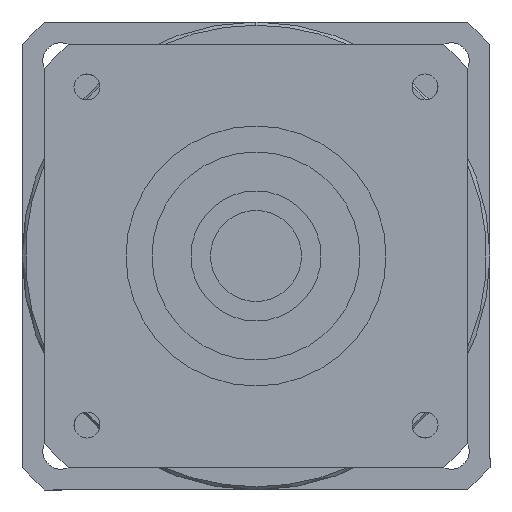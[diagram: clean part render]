
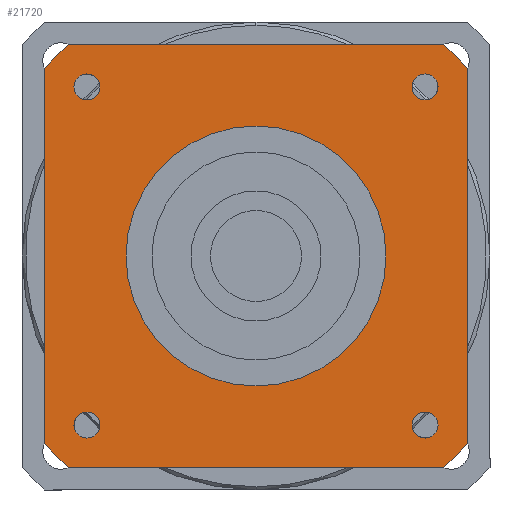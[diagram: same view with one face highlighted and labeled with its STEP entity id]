
A CAD part, left-side view. The second image highlights one B-rep face of the part: STEP entity #21720.
In plain terms, the highlighted planar face has unit normal (-1, 0, 0) as drawn and (0, 0, -1) by its records, which use the part's own axes.
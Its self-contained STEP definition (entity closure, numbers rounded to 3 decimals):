
#15830=CARTESIAN_POINT('',(28.914,32.5,-91.));
#15840=VERTEX_POINT('',#15830);
#15870=CARTESIAN_POINT('',(0.,0.,
-91.));
#15880=DIRECTION('',(0.,0.,1.));
#15890=DIRECTION('',(0.,-1.,0.));
#15900=AXIS2_PLACEMENT_3D('',#15870,#15880,#15890);
#15910=CIRCLE('',#15900,43.5);
#15920=CARTESIAN_POINT('',(32.5,28.914,-91.));
#15930=VERTEX_POINT('',#15920);
#15940=EDGE_CURVE('',#15930,#15840,#15910,.T.);
#18330=CARTESIAN_POINT('',(-28.914,32.5,-91.));
#18340=VERTEX_POINT('',#18330);
#18420=CARTESIAN_POINT('',(-32.5,28.914,-91.));
#18430=VERTEX_POINT('',#18420);
#18460=CARTESIAN_POINT('',(0.,0.,
-91.));
#18470=DIRECTION('',(0.,0.,1.));
#18480=DIRECTION('',(0.,-1.,0.));
#18490=AXIS2_PLACEMENT_3D('',#18460,#18470,#18480);
#18500=CIRCLE('',#18490,43.5);
#18510=EDGE_CURVE('',#18340,#18430,#18500,.T.);
#19020=CARTESIAN_POINT('',(-32.5,-28.914,-91.));
#19030=VERTEX_POINT('',#19020);
#19110=CARTESIAN_POINT('',(-28.914,-32.5,-91.));
#19120=VERTEX_POINT('',#19110);
#19150=CARTESIAN_POINT('',(0.,0.,
-91.));
#19160=DIRECTION('',(0.,0.,1.));
#19170=DIRECTION('',(0.,-1.,0.));
#19180=AXIS2_PLACEMENT_3D('',#19150,#19160,#19170);
#19190=CIRCLE('',#19180,43.5);
#19200=EDGE_CURVE('',#19030,#19120,#19190,.T.);
#19670=CARTESIAN_POINT('',(28.914,-32.5,-91.));
#19680=VERTEX_POINT('',#19670);
#19760=CARTESIAN_POINT('',(32.5,-28.914,-91.));
#19770=VERTEX_POINT('',#19760);
#19800=CARTESIAN_POINT('',(0.,0.,
-91.));
#19810=DIRECTION('',(0.,0.,1.));
#19820=DIRECTION('',(0.,-1.,0.));
#19830=AXIS2_PLACEMENT_3D('',#19800,#19810,#19820);
#19840=CIRCLE('',#19830,43.5);
#19850=EDGE_CURVE('',#19680,#19770,#19840,.T.);
#20000=CARTESIAN_POINT('',(32.5,-32.5,-91.));
#20010=DIRECTION('',(0.,1.,0.));
#20020=VECTOR('',#20010,1000.);
#20030=LINE('',#20000,#20020);
#20040=EDGE_CURVE('',#19770,#15930,#20030,.T.);
#20190=CARTESIAN_POINT('',(32.5,32.5,-91.));
#20200=DIRECTION('',(-1.,0.,0.));
#20210=VECTOR('',#20200,1000.);
#20220=LINE('',#20190,#20210);
#20230=EDGE_CURVE('',#15840,#18340,#20220,.T.);
#20370=CARTESIAN_POINT('',(-26.,24.,-91.));
#20380=VERTEX_POINT('',#20370);
#20470=CARTESIAN_POINT('',(-26.,28.,-91.));
#20480=VERTEX_POINT('',#20470);
#20510=CARTESIAN_POINT('',(-26.,26.,-91.));
#20520=DIRECTION('',(0.,0.,-1.));
#20530=DIRECTION('',(-1.,0.,0.));
#20540=AXIS2_PLACEMENT_3D('',#20510,#20520,#20530);
#20550=CIRCLE('',#20540,2.);
#20560=CARTESIAN_POINT('',(-28.,26.,-91.));
#20570=VERTEX_POINT('',#20560);
#20580=EDGE_CURVE('',#20570,#20480,#20550,.T.);
#20600=EDGE_CURVE('',#20380,#20570,#20550,.T.);
#20650=CARTESIAN_POINT('',(-32.5,32.5,-91.));
#20660=DIRECTION('',(0.,0.,1.));
#20670=DIRECTION('',(-1.,0.,0.));
#20680=AXIS2_PLACEMENT_3D('',#20650,#20660,#20670);
#20690=PLANE('',#20680);
#20700=CARTESIAN_POINT('',(26.,-26.,-91.));
#20710=DIRECTION('',(0.,0.,-1.));
#20720=DIRECTION('',(1.,0.,0.));
#20730=AXIS2_PLACEMENT_3D('',#20700,#20710,#20720);
#20740=CIRCLE('',#20730,2.);
#20750=CARTESIAN_POINT('',(28.,-26.,-91.));
#20760=VERTEX_POINT('',#20750);
#20770=CARTESIAN_POINT('',(26.,-28.,-91.));
#20780=VERTEX_POINT('',#20770);
#20790=EDGE_CURVE('',#20760,#20780,#20740,.T.);
#20800=ORIENTED_EDGE('',*,*,#20790,.F.);
#20810=CARTESIAN_POINT('',(26.,-24.,-91.));
#20820=VERTEX_POINT('',#20810);
#20830=EDGE_CURVE('',#20780,#20820,#20740,.T.);
#20840=ORIENTED_EDGE('',*,*,#20830,.F.);
#20850=EDGE_CURVE('',#20820,#20760,#20740,.T.);
#20860=ORIENTED_EDGE('',*,*,#20850,.F.);
#20870=EDGE_LOOP('',(#20860,#20840,#20800));
#20880=FACE_BOUND('',#20870,.T.);
#20890=CARTESIAN_POINT('',(26.,26.,-91.));
#20900=DIRECTION('',(0.,0.,-1.));
#20910=DIRECTION('',(0.,1.,0.));
#20920=AXIS2_PLACEMENT_3D('',#20890,#20900,#20910);
#20930=CIRCLE('',#20920,2.);
#20940=CARTESIAN_POINT('',(26.,28.,-91.));
#20950=VERTEX_POINT('',#20940);
#20960=CARTESIAN_POINT('',(28.,26.,-91.));
#20970=VERTEX_POINT('',#20960);
#20980=EDGE_CURVE('',#20950,#20970,#20930,.T.);
#20990=ORIENTED_EDGE('',*,*,#20980,.F.);
#21000=CARTESIAN_POINT('',(24.,26.,-91.));
#21010=VERTEX_POINT('',#21000);
#21020=EDGE_CURVE('',#20970,#21010,#20930,.T.);
#21030=ORIENTED_EDGE('',*,*,#21020,.F.);
#21040=EDGE_CURVE('',#21010,#20950,#20930,.T.);
#21050=ORIENTED_EDGE('',*,*,#21040,.F.);
#21060=EDGE_LOOP('',(#21050,#21030,#20990));
#21070=FACE_BOUND('',#21060,.T.);
#21080=ORIENTED_EDGE('',*,*,#20580,.F.);
#21090=EDGE_CURVE('',#20480,#20380,#20550,.T.);
#21100=ORIENTED_EDGE('',*,*,#21090,.F.);
#21110=ORIENTED_EDGE('',*,*,#20600,.F.);
#21120=EDGE_LOOP('',(#21110,#21100,#21080));
#21130=FACE_BOUND('',#21120,.T.);
#21140=CARTESIAN_POINT('',(-26.,-26.,-91.));
#21150=DIRECTION('',(0.,0.,-1.));
#21160=DIRECTION('',(0.,-1.,0.));
#21170=AXIS2_PLACEMENT_3D('',#21140,#21150,#21160);
#21180=CIRCLE('',#21170,2.);
#21190=CARTESIAN_POINT('',(-26.,-28.,-91.));
#21200=VERTEX_POINT('',#21190);
#21210=CARTESIAN_POINT('',(-28.,-26.,-91.));
#21220=VERTEX_POINT('',#21210);
#21230=EDGE_CURVE('',#21200,#21220,#21180,.T.);
#21240=ORIENTED_EDGE('',*,*,#21230,.F.);
#21250=CARTESIAN_POINT('',(-24.,-26.,-91.));
#21260=VERTEX_POINT('',#21250);
#21270=EDGE_CURVE('',#21220,#21260,#21180,.T.);
#21280=ORIENTED_EDGE('',*,*,#21270,.F.);
#21290=EDGE_CURVE('',#21260,#21200,#21180,.T.);
#21300=ORIENTED_EDGE('',*,*,#21290,.F.);
#21310=EDGE_LOOP('',(#21300,#21280,#21240));
#21320=FACE_BOUND('',#21310,.T.);
#21330=ORIENTED_EDGE('',*,*,#19200,.F.);
#21340=CARTESIAN_POINT('',(-32.5,-32.5,-91.));
#21350=DIRECTION('',(1.,0.,0.));
#21360=VECTOR('',#21350,1000.);
#21370=LINE('',#21340,#21360);
#21380=EDGE_CURVE('',#19120,#19680,#21370,.T.);
#21390=ORIENTED_EDGE('',*,*,#21380,.F.);
#21400=ORIENTED_EDGE('',*,*,#19850,.F.);
#21410=ORIENTED_EDGE('',*,*,#20040,.F.);
#21420=ORIENTED_EDGE('',*,*,#15940,.F.);
#21430=ORIENTED_EDGE('',*,*,#20230,.F.);
#21440=ORIENTED_EDGE('',*,*,#18510,.F.);
#21450=CARTESIAN_POINT('',(-32.5,32.5,-91.));
#21460=DIRECTION('',(0.,-1.,0.));
#21470=VECTOR('',#21460,1000.);
#21480=LINE('',#21450,#21470);
#21490=EDGE_CURVE('',#18430,#19030,#21480,.T.);
#21500=ORIENTED_EDGE('',*,*,#21490,.F.);
#21510=EDGE_LOOP('',(#21500,#21440,#21430,#21420,#21410,#21400,#21390,
#21330));
#21520=FACE_OUTER_BOUND('',#21510,.T.);
#21530=CARTESIAN_POINT('',(0.,0.,
-91.));
#21540=DIRECTION('',(0.,0.,1.));
#21550=DIRECTION('',(0.,-1.,0.));
#21560=AXIS2_PLACEMENT_3D('',#21530,#21540,#21550);
#21570=CIRCLE('',#21560,20.);
#21580=CARTESIAN_POINT('',(20.,0.,-91.));
#21590=VERTEX_POINT('',#21580);
#21600=CARTESIAN_POINT('',(-20.,0.,-91.));
#21610=VERTEX_POINT('',#21600);
#21620=EDGE_CURVE('',#21590,#21610,#21570,.T.);
#21630=ORIENTED_EDGE('',*,*,#21620,.T.);
#21640=CARTESIAN_POINT('',(0.,-20.,-91.));
#21650=VERTEX_POINT('',#21640);
#21660=EDGE_CURVE('',#21650,#21590,#21570,.T.);
#21670=ORIENTED_EDGE('',*,*,#21660,.T.);
#21680=EDGE_CURVE('',#21610,#21650,#21570,.T.);
#21690=ORIENTED_EDGE('',*,*,#21680,.T.);
#21700=EDGE_LOOP('',(#21690,#21670,#21630));
#21710=FACE_BOUND('',#21700,.T.);
#21720=ADVANCED_FACE('',(#20880,#21070,#21130,#21320,#21520,#21710),
#20690,.F.);
